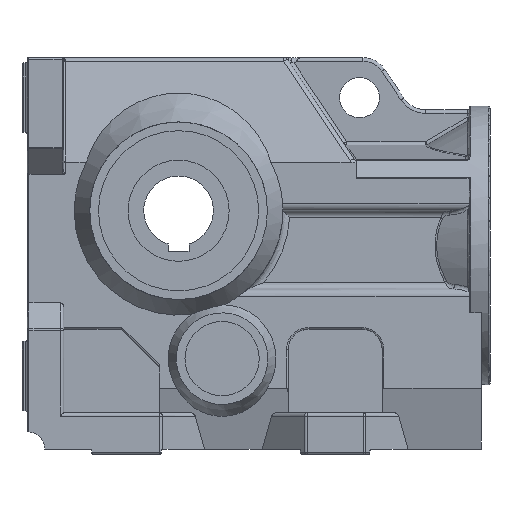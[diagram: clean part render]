
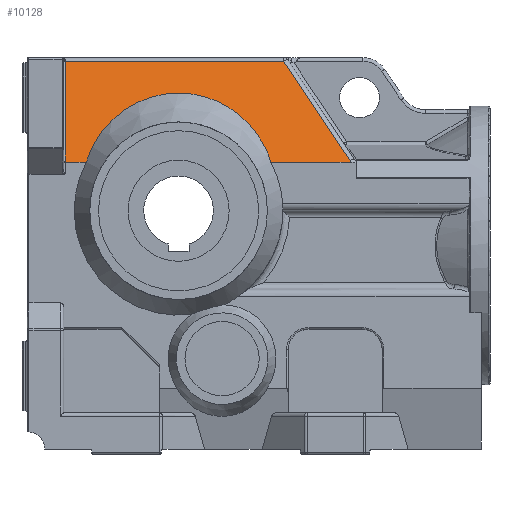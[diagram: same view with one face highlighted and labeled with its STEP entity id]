
A CAD part, front view. The second image highlights one B-rep face of the part: STEP entity #10128.
In plain terms, the highlighted planar face has unit normal (0, -0.949, 0.316).
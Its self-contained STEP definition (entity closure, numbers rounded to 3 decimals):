
#1332=CARTESIAN_POINT('',(-95.066,-70.0,168.0));
#1333=VERTEX_POINT('',#1332);
#1341=CARTESIAN_POINT('',(-107.0,-70.0,168.0));
#1342=VERTEX_POINT('',#1341);
#1343=CARTESIAN_POINT('',(-107.0,-70.0,168.0));
#1344=DIRECTION('',(1.0,0.0,0.0));
#1345=VECTOR('',#1344,11.934);
#1346=LINE('',#1343,#1345);
#1347=EDGE_CURVE('',#1342,#1333,#1346,.T.);
#2612=CARTESIAN_POINT('',(-107.0,-50.684,225.949));
#2613=VERTEX_POINT('',#2612);
#2746=CARTESIAN_POINT('',(-107.0,-70.,168.0));
#2747=DIRECTION('',(0.0,0.316,0.949));
#2748=VECTOR('',#2747,61.083);
#2749=LINE('',#2746,#2748);
#2750=EDGE_CURVE('',#1342,#2613,#2749,.T.);
#4480=CARTESIAN_POINT('',(18.394,-50.684,225.949));
#4481=VERTEX_POINT('',#4480);
#4505=CARTESIAN_POINT('',(-107.0,-50.684,225.949));
#4506=DIRECTION('',(1.0,0.0,0.0));
#4507=VECTOR('',#4506,125.394);
#4508=LINE('',#4505,#4507);
#4509=EDGE_CURVE('',#2613,#4481,#4508,.T.);
#4522=CARTESIAN_POINT('',(56.549,-69.761,168.717));
#4523=VERTEX_POINT('',#4522);
#4540=CARTESIAN_POINT('',(18.394,-50.684,225.949));
#4541=DIRECTION('',(0.535,-0.267,-0.802));
#4542=VECTOR('',#4541,71.381);
#4543=LINE('',#4540,#4542);
#4544=EDGE_CURVE('',#4481,#4523,#4543,.T.);
#4640=CARTESIAN_POINT('',(57.113,-70.0,168.0));
#4641=VERTEX_POINT('',#4640);
#4642=CARTESIAN_POINT('',(60.6,-68.782,171.654));
#4643=DIRECTION('',(0.,-0.949,0.316));
#4644=DIRECTION('',(0.228,-0.308,-0.924));
#4645=AXIS2_PLACEMENT_3D('',#4642,#4643,#4644);
#4646=ELLIPSE('',#4645,5.691,5.);
#4647=EDGE_CURVE('',#4523,#4641,#4646,.T.);
#5428=CARTESIAN_POINT('',(11.066,-70.0,168.0));
#5429=VERTEX_POINT('',#5428);
#5430=CARTESIAN_POINT('',(11.066,-70.0,168.0));
#5431=DIRECTION('',(1.0,0.0,0.0));
#5432=VECTOR('',#5431,46.047);
#5433=LINE('',#5430,#5432);
#5434=EDGE_CURVE('',#5429,#4641,#5433,.T.);
#10108=CARTESIAN_POINT('',(6.,-60.0,198.0));
#10109=DIRECTION('',(0.0,-0.949,0.316));
#10110=DIRECTION('',(0.0,-0.316,-0.949));
#10111=AXIS2_PLACEMENT_3D('',#10108,#10109,#10110);
#10112=PLANE('',#10111);
#10113=ORIENTED_EDGE('',*,*,#2750,.F.);
#10114=ORIENTED_EDGE('',*,*,#1347,.T.);
#10115=CARTESIAN_POINT('',(-42.0,-75.695,150.914));
#10116=DIRECTION('',(0.,0.949,-0.316));
#10117=DIRECTION('',(0.,-0.316,-0.949));
#10118=AXIS2_PLACEMENT_3D('',#10115,#10116,#10117);
#10119=ELLIPSE('',#10118,59.78,55.652);
#10120=EDGE_CURVE('',#1333,#5429,#10119,.T.);
#10121=ORIENTED_EDGE('',*,*,#10120,.T.);
#10122=ORIENTED_EDGE('',*,*,#5434,.T.);
#10123=ORIENTED_EDGE('',*,*,#4647,.F.);
#10124=ORIENTED_EDGE('',*,*,#4544,.F.);
#10125=ORIENTED_EDGE('',*,*,#4509,.F.);
#10126=EDGE_LOOP('',(#10113,#10114,#10121,#10122,#10123,#10124,#10125));
#10127=FACE_OUTER_BOUND('',#10126,.T.);
#10128=ADVANCED_FACE('',(#10127),#10112,.T.);
